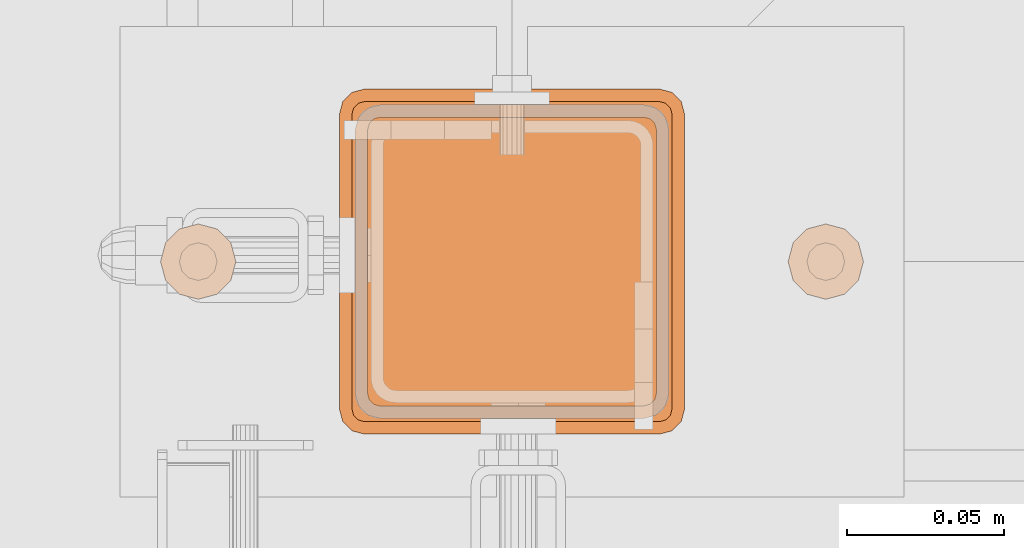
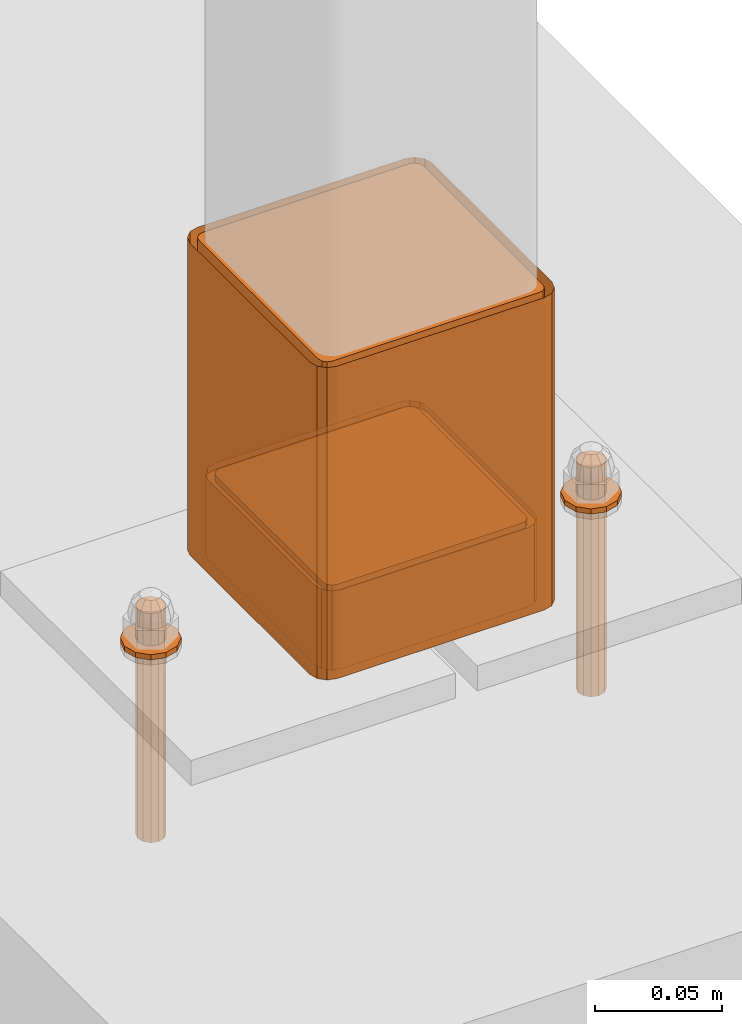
# One storey, part 89 of 116: 4 proxies.
"""IFC2X3 building model written with IfcOpenShell, lengths in millimetres."""

from ifc_helpers import new_model, entity, si_unit, converted_unit, origin_with_axes, place, context, project, spatial, faceted_brep, material, element, save


model = new_model("IFC2X3")

# Units and contexts
model_context = context("Model", 3, precision=1e-09, world=origin_with_axes())
ifc_project = project(units=[si_unit("LENGTHUNIT", "METRE", prefix="MILLI"), si_unit("AREAUNIT", "SQUARE_METRE"), si_unit("VOLUMEUNIT", "CUBIC_METRE"), converted_unit("PLANEANGLEUNIT", "DEGREE", entity("IfcPlaneAngleMeasure", 0.01745329), si_unit("PLANEANGLEUNIT", "RADIAN"), dimensions=[0, 0, 0, 0, 0, 0, 0])], contexts=[model_context])

# Site, building, storey
site_placement = place(None, origin_with_axes())
site = spatial("IfcSite", under=ifc_project, at=site_placement, Name="Site", CompositionType="ELEMENT")
building_placement = place(site_placement, origin_with_axes())
building = spatial("IfcBuilding", under=site, at=building_placement, Name="Struktur 1", CompositionType="ELEMENT")
storey_placement = place(building_placement, origin_with_axes())
storey = spatial("IfcBuildingStorey", under=building, at=storey_placement, Name="Default Storey", CompositionType="ELEMENT", Elevation=0.0)

# Proxies
ifc_material = material(Name="Kein")
proxy_1_placement = place(None, origin_with_axes())
element("IfcBuildingElementProxy", 1, at=proxy_1_placement, inside=storey, material=ifc_material, ObjectType="-", context=model_context, shape_type="Brep", body=[
    faceted_brep([(55434.049134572, 9137.555035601, -2164.5), (55434.049134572, 9137.555035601, -2180.0), (55431.852982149, 9135.358883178, -2180.0), (55431.852982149, 9135.358883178, -2164.5), (55425.049134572, 9132.358883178, -2180.0), (55426.656829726, 9126.358883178, -2180.0), (55431.049134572, 9121.966578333, -2180.0), (55437.049134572, 9120.358883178, -2180.0), (55443.049134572, 9121.966578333, -2180.0), (55447.441439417, 9126.358883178, -2180.0), (55449.049134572, 9132.358883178, -2180.0), (55447.441439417, 9138.358883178, -2180.0), (55443.049134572, 9142.751188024, -2180.0), (55437.049134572, 9144.358883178, -2180.0), (55431.049134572, 9142.751188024, -2180.0), (55426.656829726, 9138.358883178, -2180.0), (55437.049134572, 9138.358883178, -2180.0), (55440.049134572, 9137.555035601, -2180.0), (55442.245286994, 9135.358883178, -2180.0), (55443.049134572, 9132.358883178, -2180.0), (55442.245286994, 9129.358883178, -2180.0), (55440.049134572, 9127.162730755, -2180.0), (55437.049134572, 9126.358883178, -2180.0), (55434.049134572, 9127.162730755, -2180.0), (55431.852982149, 9129.358883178, -2180.0), (55431.049134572, 9132.358883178, -2180.0), (55437.049134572, 9138.358883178, -2164.5), (55426.656829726, 9138.358883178, -2182.5), (55431.049134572, 9142.751188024, -2182.5), (55440.049134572, 9127.162730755, -2164.5), (55442.245286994, 9129.358883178, -2164.5), (55443.049134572, 9132.358883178, -2164.5), (55442.245286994, 9135.358883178, -2164.5), (55440.049134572, 9137.555035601, -2164.5), (55431.049134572, 9132.358883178, -2164.5), (55431.852982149, 9129.358883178, -2164.5), (55434.049134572, 9127.162730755, -2164.5), (55437.049134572, 9126.358883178, -2164.5), (55437.049134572, 9144.358883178, -2182.5), (55443.049134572, 9142.751188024, -2182.5), (55447.441439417, 9138.358883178, -2182.5), (55449.049134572, 9132.358883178, -2182.5), (55447.441439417, 9126.358883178, -2182.5), (55443.049134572, 9121.966578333, -2182.5), (55437.049134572, 9120.358883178, -2182.5), (55431.049134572, 9121.966578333, -2182.5), (55426.656829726, 9126.358883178, -2182.5), (55425.049134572, 9132.358883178, -2182.5), (55437.049134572, 9138.358883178, -2182.5), (55434.049134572, 9137.555035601, -2182.5), (55431.852982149, 9135.358883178, -2182.5), (55431.049134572, 9132.358883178, -2182.5), (55431.852982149, 9129.358883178, -2182.5), (55434.049134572, 9127.162730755, -2182.5), (55437.049134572, 9126.358883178, -2182.5), (55440.049134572, 9127.162730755, -2182.5), (55442.245286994, 9129.358883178, -2182.5), (55443.049134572, 9132.358883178, -2182.5), (55442.245286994, 9135.358883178, -2182.5), (55440.049134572, 9137.555035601, -2182.5), (55434.049134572, 9137.555035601, -2274.5), (55437.049134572, 9138.358883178, -2274.5), (55431.852982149, 9135.358883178, -2274.5), (55431.049134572, 9132.358883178, -2274.5), (55431.852982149, 9129.358883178, -2274.5), (55434.049134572, 9127.162730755, -2274.5), (55440.049134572, 9137.555035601, -2274.5), (55442.245286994, 9135.358883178, -2274.5), (55443.049134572, 9132.358883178, -2274.5), (55442.245286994, 9129.358883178, -2274.5), (55440.049134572, 9127.162730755, -2274.5), (55437.049134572, 9126.358883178, -2274.5)], [[[0, 1, 2, 3]], [[4, 5, 6, 7, 8, 9, 10, 11, 12, 13, 14, 15], [2, 1, 16, 17, 18, 19, 20, 21, 22, 23, 24, 25]], [[1, 0, 26, 16]], [[27, 15, 14, 28]], [[29, 30, 31, 32, 33, 26, 0, 3, 34, 35, 36, 37]], [[38, 39, 40, 41, 42, 43, 44, 45, 46, 47, 27, 28], [48, 49, 50, 51, 52, 53, 54, 55, 56, 57, 58, 59]], [[15, 27, 47, 4]], [[3, 2, 25, 34]], [[28, 14, 13, 38]], [[16, 26, 33, 17]], [[60, 49, 48, 61]], [[62, 50, 49, 60]], [[63, 51, 50, 62]], [[64, 52, 51, 63]], [[4, 47, 46, 5]], [[34, 25, 24, 35]], [[17, 33, 32, 18]], [[65, 64, 63, 62, 60, 61, 66, 67, 68, 69, 70, 71]], [[61, 48, 59, 66]], [[38, 13, 12, 39]], [[52, 64, 65, 53]], [[18, 32, 31, 19]], [[53, 65, 71, 54]], [[5, 46, 45, 6]], [[35, 24, 23, 36]], [[58, 67, 66, 59]], [[39, 12, 11, 40]], [[19, 31, 30, 20]], [[67, 58, 57, 68]], [[56, 69, 68, 57]], [[55, 70, 69, 56]], [[54, 71, 70, 55]], [[6, 45, 44, 7]], [[36, 23, 22, 37]], [[40, 11, 10, 41]], [[21, 29, 37, 22]], [[20, 30, 29, 21]], [[7, 44, 43, 8]], [[41, 10, 9, 42]], [[8, 43, 42, 9]]]),
])
proxy_2_placement = place(None, origin_with_axes())
element("IfcBuildingElementProxy", 2, at=proxy_2_placement, inside=storey, material=ifc_material, ObjectType="-", context=model_context, shape_type="Brep", body=[
    faceted_brep([(55234.049134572, 9137.555035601, -2164.5), (55234.049134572, 9137.555035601, -2180.0), (55231.852982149, 9135.358883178, -2180.0), (55231.852982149, 9135.358883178, -2164.5), (55225.049134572, 9132.358883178, -2180.0), (55226.656829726, 9126.358883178, -2180.0), (55231.049134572, 9121.966578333, -2180.0), (55237.049134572, 9120.358883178, -2180.0), (55243.049134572, 9121.966578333, -2180.0), (55247.441439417, 9126.358883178, -2180.0), (55249.049134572, 9132.358883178, -2180.0), (55247.441439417, 9138.358883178, -2180.0), (55243.049134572, 9142.751188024, -2180.0), (55237.049134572, 9144.358883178, -2180.0), (55231.049134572, 9142.751188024, -2180.0), (55226.656829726, 9138.358883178, -2180.0), (55237.049134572, 9138.358883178, -2180.0), (55240.049134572, 9137.555035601, -2180.0), (55242.245286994, 9135.358883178, -2180.0), (55243.049134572, 9132.358883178, -2180.0), (55242.245286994, 9129.358883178, -2180.0), (55240.049134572, 9127.162730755, -2180.0), (55237.049134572, 9126.358883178, -2180.0), (55234.049134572, 9127.162730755, -2180.0), (55231.852982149, 9129.358883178, -2180.0), (55231.049134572, 9132.358883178, -2180.0), (55237.049134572, 9138.358883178, -2164.5), (55226.656829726, 9138.358883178, -2182.5), (55231.049134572, 9142.751188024, -2182.5), (55240.049134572, 9127.162730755, -2164.5), (55242.245286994, 9129.358883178, -2164.5), (55243.049134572, 9132.358883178, -2164.5), (55242.245286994, 9135.358883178, -2164.5), (55240.049134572, 9137.555035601, -2164.5), (55231.049134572, 9132.358883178, -2164.5), (55231.852982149, 9129.358883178, -2164.5), (55234.049134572, 9127.162730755, -2164.5), (55237.049134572, 9126.358883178, -2164.5), (55237.049134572, 9144.358883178, -2182.5), (55243.049134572, 9142.751188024, -2182.5), (55247.441439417, 9138.358883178, -2182.5), (55249.049134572, 9132.358883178, -2182.5), (55247.441439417, 9126.358883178, -2182.5), (55243.049134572, 9121.966578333, -2182.5), (55237.049134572, 9120.358883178, -2182.5), (55231.049134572, 9121.966578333, -2182.5), (55226.656829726, 9126.358883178, -2182.5), (55225.049134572, 9132.358883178, -2182.5), (55237.049134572, 9138.358883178, -2182.5), (55234.049134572, 9137.555035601, -2182.5), (55231.852982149, 9135.358883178, -2182.5), (55231.049134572, 9132.358883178, -2182.5), (55231.852982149, 9129.358883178, -2182.5), (55234.049134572, 9127.162730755, -2182.5), (55237.049134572, 9126.358883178, -2182.5), (55240.049134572, 9127.162730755, -2182.5), (55242.245286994, 9129.358883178, -2182.5), (55243.049134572, 9132.358883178, -2182.5), (55242.245286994, 9135.358883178, -2182.5), (55240.049134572, 9137.555035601, -2182.5), (55234.049134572, 9137.555035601, -2274.5), (55237.049134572, 9138.358883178, -2274.5), (55231.852982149, 9135.358883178, -2274.5), (55231.049134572, 9132.358883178, -2274.5), (55231.852982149, 9129.358883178, -2274.5), (55234.049134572, 9127.162730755, -2274.5), (55240.049134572, 9137.555035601, -2274.5), (55242.245286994, 9135.358883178, -2274.5), (55243.049134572, 9132.358883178, -2274.5), (55242.245286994, 9129.358883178, -2274.5), (55240.049134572, 9127.162730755, -2274.5), (55237.049134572, 9126.358883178, -2274.5)], [[[0, 1, 2, 3]], [[4, 5, 6, 7, 8, 9, 10, 11, 12, 13, 14, 15], [2, 1, 16, 17, 18, 19, 20, 21, 22, 23, 24, 25]], [[1, 0, 26, 16]], [[27, 15, 14, 28]], [[29, 30, 31, 32, 33, 26, 0, 3, 34, 35, 36, 37]], [[38, 39, 40, 41, 42, 43, 44, 45, 46, 47, 27, 28], [48, 49, 50, 51, 52, 53, 54, 55, 56, 57, 58, 59]], [[15, 27, 47, 4]], [[3, 2, 25, 34]], [[28, 14, 13, 38]], [[16, 26, 33, 17]], [[60, 49, 48, 61]], [[62, 50, 49, 60]], [[63, 51, 50, 62]], [[64, 52, 51, 63]], [[4, 47, 46, 5]], [[34, 25, 24, 35]], [[17, 33, 32, 18]], [[65, 64, 63, 62, 60, 61, 66, 67, 68, 69, 70, 71]], [[61, 48, 59, 66]], [[38, 13, 12, 39]], [[52, 64, 65, 53]], [[18, 32, 31, 19]], [[53, 65, 71, 54]], [[5, 46, 45, 6]], [[35, 24, 23, 36]], [[58, 67, 66, 59]], [[39, 12, 11, 40]], [[19, 31, 30, 20]], [[67, 58, 57, 68]], [[56, 69, 68, 57]], [[55, 70, 69, 56]], [[54, 71, 70, 55]], [[6, 45, 44, 7]], [[36, 23, 22, 37]], [[40, 11, 10, 41]], [[21, 29, 37, 22]], [[20, 30, 29, 21]], [[7, 44, 43, 8]], [[41, 10, 9, 42]], [[8, 43, 42, 9]]]),
])
proxy_3_placement = place(None, origin_with_axes())
element("IfcBuildingElementProxy", 3, at=proxy_3_placement, inside=storey, material=ifc_material, ObjectType="-", context=model_context, shape_type="Brep", body=[
    faceted_brep([(55283.120931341, 9081.358883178, -2035.0), (55283.120931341, 9081.358883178, -2185.0), (55286.049134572, 9078.430679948, -2185.0), (55286.049134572, 9078.430679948, -2035.0), (55286.585032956, 9083.358883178, -2035.0), (55286.049134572, 9085.358883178, -2035.0), (55286.049134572, 9179.358883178, -2035.0), (55286.585032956, 9181.358883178, -2035.0), (55288.049134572, 9182.822984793, -2035.0), (55290.049134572, 9183.358883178, -2035.0), (55384.049134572, 9183.358883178, -2035.0), (55386.049134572, 9182.822984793, -2035.0), (55387.513236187, 9181.358883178, -2035.0), (55388.049134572, 9179.358883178, -2035.0), (55388.049134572, 9085.358883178, -2035.0), (55387.513236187, 9083.358883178, -2035.0), (55386.049134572, 9081.894781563, -2035.0), (55384.049134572, 9081.358883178, -2035.0), (55290.049134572, 9081.358883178, -2035.0), (55288.049134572, 9081.894781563, -2035.0), (55288.049134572, 9081.894781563, -2185.0), (55286.585032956, 9083.358883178, -2185.0), (55282.049134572, 9085.358883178, -2185.0), (55282.049134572, 9179.358883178, -2185.0), (55283.120931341, 9183.358883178, -2185.0), (55286.049134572, 9186.287086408, -2185.0), (55290.049134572, 9187.358883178, -2185.0), (55384.049134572, 9187.358883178, -2185.0), (55388.049134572, 9186.287086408, -2185.0), (55390.977337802, 9183.358883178, -2185.0), (55392.049134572, 9179.358883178, -2185.0), (55392.049134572, 9085.358883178, -2185.0), (55390.977337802, 9081.358883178, -2185.0), (55388.049134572, 9078.430679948, -2185.0), (55384.049134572, 9077.358883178, -2185.0), (55290.049134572, 9077.358883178, -2185.0), (55290.049134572, 9081.358883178, -2185.0), (55384.049134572, 9081.358883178, -2185.0), (55386.049134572, 9081.894781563, -2185.0), (55387.513236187, 9083.358883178, -2185.0), (55388.049134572, 9085.358883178, -2185.0), (55388.049134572, 9179.358883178, -2185.0), (55387.513236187, 9181.358883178, -2185.0), (55386.049134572, 9182.822984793, -2185.0), (55384.049134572, 9183.358883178, -2185.0), (55290.049134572, 9183.358883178, -2185.0), (55288.049134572, 9182.822984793, -2185.0), (55286.585032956, 9181.358883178, -2185.0), (55286.049134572, 9179.358883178, -2185.0), (55286.049134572, 9085.358883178, -2185.0), (55282.049134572, 9085.358883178, -2035.0), (55290.049134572, 9077.358883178, -2035.0), (55282.049134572, 9179.358883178, -2035.0), (55384.049134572, 9077.358883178, -2035.0), (55283.120931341, 9183.358883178, -2035.0), (55388.049134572, 9078.430679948, -2035.0), (55332.048134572, 9183.358883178, -2045.0), (55332.048134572, 9187.358883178, -2045.0), (55332.718141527, 9187.358883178, -2042.4995), (55332.718141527, 9183.358883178, -2042.4995), (55332.718141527, 9183.358883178, -2047.5005), (55332.718141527, 9187.358883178, -2047.5005), (55334.548634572, 9187.358883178, -2040.669006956), (55334.548634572, 9183.358883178, -2040.669006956), (55290.049134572, 9187.358883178, -2035.0), (55384.049134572, 9187.358883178, -2035.0), (55334.548634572, 9187.358883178, -2049.330993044), (55337.049134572, 9187.358883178, -2050.001), (55339.549634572, 9187.358883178, -2049.330993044), (55341.380127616, 9187.358883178, -2047.5005), (55342.050134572, 9187.358883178, -2045.0), (55341.380127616, 9187.358883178, -2042.4995), (55339.549634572, 9187.358883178, -2040.669006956), (55337.049134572, 9187.358883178, -2039.999), (55286.049134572, 9186.287086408, -2035.0), (55337.049134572, 9183.358883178, -2039.999), (55339.549634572, 9183.358883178, -2040.669006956), (55341.380127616, 9183.358883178, -2042.4995), (55342.050134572, 9183.358883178, -2045.0), (55341.380127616, 9183.358883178, -2047.5005), (55339.549634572, 9183.358883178, -2049.330993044), (55337.049134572, 9183.358883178, -2050.001), (55334.548634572, 9183.358883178, -2049.330993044), (55390.977337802, 9081.358883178, -2035.0), (55392.049134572, 9085.358883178, -2035.0), (55392.049134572, 9179.358883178, -2035.0), (55390.977337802, 9183.358883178, -2035.0), (55388.049134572, 9186.287086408, -2035.0)], [[[0, 1, 2, 3]], [[4, 5, 6, 7, 8, 9, 10, 11, 12, 13, 14, 15, 16, 17, 18, 19]], [[19, 20, 21, 4]], [[22, 23, 24, 25, 26, 27, 28, 29, 30, 31, 32, 33, 34, 35, 2, 1], [21, 20, 36, 37, 38, 39, 40, 41, 42, 43, 44, 45, 46, 47, 48, 49]], [[1, 0, 50, 22]], [[20, 19, 18, 36]], [[3, 2, 35, 51]], [[4, 21, 49, 5]], [[23, 22, 50, 52]], [[37, 36, 18, 17]], [[53, 51, 35, 34]], [[6, 5, 49, 48]], [[23, 52, 54, 24]], [[37, 17, 16, 38]], [[53, 34, 33, 55]], [[56, 57, 58, 59]], [[6, 48, 47, 7]], [[57, 56, 60, 61]], [[59, 58, 62, 63]], [[64, 65, 27, 26], [61, 66, 67, 68, 69, 70, 71, 72, 73, 62, 58, 57]], [[24, 54, 74, 25]], [[7, 47, 46, 8]], [[9, 45, 44, 10], [59, 63, 75, 76, 77, 78, 79, 80, 81, 82, 60, 56]], [[38, 16, 15, 39]], [[55, 33, 32, 83]], [[63, 62, 73, 75]], [[75, 73, 72, 76]], [[45, 9, 8, 46]], [[61, 60, 82, 66]], [[76, 72, 71, 77]], [[25, 74, 64, 26]], [[66, 82, 81, 67]], [[67, 81, 80, 68]], [[39, 15, 14, 40]], [[83, 32, 31, 84]], [[77, 71, 70, 78]], [[69, 79, 78, 70]], [[68, 80, 79, 69]], [[41, 40, 14, 13]], [[85, 84, 31, 30]], [[41, 13, 12, 42]], [[10, 44, 43, 11]], [[11, 43, 42, 12]], [[85, 30, 29, 86]], [[27, 65, 87, 28]], [[86, 29, 28, 87]]]),
])
proxy_4_placement = place(None, origin_with_axes())
element("IfcBuildingElementProxy", 4, at=proxy_4_placement, inside=storey, material=ifc_material, ObjectType="-", context=model_context, shape_type="Brep", body=[
    faceted_brep([(55293.049134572, 9086.894781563, -2165.0), (55293.049134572, 9086.894781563, -2185.0), (55291.585032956, 9088.358883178, -2185.0), (55291.585032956, 9088.358883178, -2165.0), (55291.049134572, 9083.430679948, -2185.0), (55288.120931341, 9086.358883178, -2185.0), (55287.049134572, 9090.358883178, -2185.0), (55287.049134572, 9174.358883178, -2185.0), (55288.120931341, 9178.358883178, -2185.0), (55291.049134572, 9181.287086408, -2185.0), (55295.049134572, 9182.358883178, -2185.0), (55379.049134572, 9182.358883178, -2185.0), (55383.049134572, 9181.287086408, -2185.0), (55385.977337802, 9178.358883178, -2185.0), (55387.049134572, 9174.358883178, -2185.0), (55387.049134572, 9090.358883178, -2185.0), (55385.977337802, 9086.358883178, -2185.0), (55383.049134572, 9083.430679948, -2185.0), (55379.049134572, 9082.358883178, -2185.0), (55295.049134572, 9082.358883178, -2185.0), (55295.049134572, 9086.358883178, -2185.0), (55379.049134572, 9086.358883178, -2185.0), (55381.049134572, 9086.894781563, -2185.0), (55382.513236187, 9088.358883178, -2185.0), (55383.049134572, 9090.358883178, -2185.0), (55383.049134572, 9174.358883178, -2185.0), (55382.513236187, 9176.358883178, -2185.0), (55381.049134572, 9177.822984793, -2185.0), (55379.049134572, 9178.358883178, -2185.0), (55295.049134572, 9178.358883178, -2185.0), (55293.049134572, 9177.822984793, -2185.0), (55291.585032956, 9176.358883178, -2185.0), (55291.049134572, 9174.358883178, -2185.0), (55291.049134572, 9090.358883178, -2185.0), (55291.049134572, 9090.358883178, -2165.0), (55291.049134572, 9174.358883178, -2165.0), (55291.585032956, 9176.358883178, -2165.0), (55293.049134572, 9177.822984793, -2165.0), (55295.049134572, 9178.358883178, -2165.0), (55379.049134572, 9178.358883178, -2165.0), (55381.049134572, 9177.822984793, -2165.0), (55382.513236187, 9176.358883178, -2165.0), (55383.049134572, 9174.358883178, -2165.0), (55383.049134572, 9090.358883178, -2165.0), (55382.513236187, 9088.358883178, -2165.0), (55381.049134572, 9086.894781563, -2165.0), (55379.049134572, 9086.358883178, -2165.0), (55295.049134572, 9086.358883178, -2165.0), (55291.049134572, 9083.430679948, -2165.0), (55288.120931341, 9086.358883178, -2165.0), (55295.049134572, 9082.358883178, -2165.0), (55287.049134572, 9090.358883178, -2165.0), (55379.049134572, 9082.358883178, -2165.0), (55287.049134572, 9174.358883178, -2165.0), (55383.049134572, 9083.430679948, -2165.0), (55288.120931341, 9178.358883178, -2165.0), (55385.977337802, 9086.358883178, -2165.0), (55291.049134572, 9181.287086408, -2165.0), (55387.049134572, 9090.358883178, -2165.0), (55295.049134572, 9182.358883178, -2165.0), (55387.049134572, 9174.358883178, -2165.0), (55379.049134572, 9182.358883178, -2165.0), (55385.977337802, 9178.358883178, -2165.0), (55383.049134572, 9181.287086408, -2165.0)], [[[0, 1, 2, 3]], [[4, 5, 6, 7, 8, 9, 10, 11, 12, 13, 14, 15, 16, 17, 18, 19], [20, 21, 22, 23, 24, 25, 26, 27, 28, 29, 30, 31, 32, 33, 2, 1]], [[3, 34, 35, 36, 37, 38, 39, 40, 41, 42, 43, 44, 45, 46, 47, 0]], [[4, 48, 49, 5]], [[1, 0, 47, 20]], [[48, 4, 19, 50]], [[5, 49, 51, 6]], [[3, 2, 33, 34]], [[21, 20, 47, 46]], [[52, 50, 19, 18]], [[7, 6, 51, 53]], [[35, 34, 33, 32]], [[21, 46, 45, 22]], [[52, 18, 17, 54]], [[7, 53, 55, 8]], [[35, 32, 31, 36]], [[22, 45, 44, 23]], [[54, 17, 16, 56]], [[8, 55, 57, 9]], [[36, 31, 30, 37]], [[23, 44, 43, 24]], [[37, 30, 29, 38]], [[56, 16, 15, 58]], [[9, 57, 59, 10]], [[39, 38, 29, 28]], [[25, 24, 43, 42]], [[60, 58, 15, 14]], [[27, 40, 39, 28]], [[11, 10, 59, 61]], [[40, 27, 26, 41]], [[41, 26, 25, 42]], [[60, 14, 13, 62]], [[11, 61, 63, 12]], [[62, 13, 12, 63]]]),
    faceted_brep([(55293.049134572, 9086.894781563, -2155.0), (55293.049134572, 9086.894781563, -2165.0), (55291.585032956, 9088.358883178, -2165.0), (55291.585032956, 9088.358883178, -2155.0), (55291.049134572, 9083.430679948, -2165.0), (55288.120931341, 9086.358883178, -2165.0), (55287.049134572, 9090.358883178, -2165.0), (55287.049134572, 9174.358883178, -2165.0), (55288.120931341, 9178.358883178, -2165.0), (55291.049134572, 9181.287086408, -2165.0), (55295.049134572, 9182.358883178, -2165.0), (55379.049134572, 9182.358883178, -2165.0), (55383.049134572, 9181.287086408, -2165.0), (55385.977337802, 9178.358883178, -2165.0), (55387.049134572, 9174.358883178, -2165.0), (55387.049134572, 9090.358883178, -2165.0), (55385.977337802, 9086.358883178, -2165.0), (55383.049134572, 9083.430679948, -2165.0), (55379.049134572, 9082.358883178, -2165.0), (55295.049134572, 9082.358883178, -2165.0), (55295.049134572, 9086.358883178, -2165.0), (55379.049134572, 9086.358883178, -2165.0), (55381.049134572, 9086.894781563, -2165.0), (55382.513236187, 9088.358883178, -2165.0), (55383.049134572, 9090.358883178, -2165.0), (55383.049134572, 9174.358883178, -2165.0), (55382.513236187, 9176.358883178, -2165.0), (55381.049134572, 9177.822984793, -2165.0), (55379.049134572, 9178.358883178, -2165.0), (55295.049134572, 9178.358883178, -2165.0), (55293.049134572, 9177.822984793, -2165.0), (55291.585032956, 9176.358883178, -2165.0), (55291.049134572, 9174.358883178, -2165.0), (55291.049134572, 9090.358883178, -2165.0), (55291.049134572, 9090.358883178, -2155.0), (55291.049134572, 9174.358883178, -2155.0), (55291.585032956, 9176.358883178, -2155.0), (55293.049134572, 9177.822984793, -2155.0), (55295.049134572, 9178.358883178, -2155.0), (55379.049134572, 9178.358883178, -2155.0), (55381.049134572, 9177.822984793, -2155.0), (55382.513236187, 9176.358883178, -2155.0), (55383.049134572, 9174.358883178, -2155.0), (55383.049134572, 9090.358883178, -2155.0), (55382.513236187, 9088.358883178, -2155.0), (55381.049134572, 9086.894781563, -2155.0), (55379.049134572, 9086.358883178, -2155.0), (55295.049134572, 9086.358883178, -2155.0), (55291.049134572, 9083.430679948, -2155.0), (55288.120931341, 9086.358883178, -2155.0), (55295.049134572, 9082.358883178, -2155.0), (55287.049134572, 9090.358883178, -2155.0), (55379.049134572, 9082.358883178, -2155.0), (55287.049134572, 9174.358883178, -2155.0), (55383.049134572, 9083.430679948, -2155.0), (55288.120931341, 9178.358883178, -2155.0), (55385.977337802, 9086.358883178, -2155.0), (55291.049134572, 9181.287086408, -2155.0), (55387.049134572, 9090.358883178, -2155.0), (55295.049134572, 9182.358883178, -2155.0), (55387.049134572, 9174.358883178, -2155.0), (55379.049134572, 9182.358883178, -2155.0), (55385.977337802, 9178.358883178, -2155.0), (55383.049134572, 9181.287086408, -2155.0)], [[[0, 1, 2, 3]], [[4, 5, 6, 7, 8, 9, 10, 11, 12, 13, 14, 15, 16, 17, 18, 19], [20, 21, 22, 23, 24, 25, 26, 27, 28, 29, 30, 31, 32, 33, 2, 1]], [[3, 34, 35, 36, 37, 38, 39, 40, 41, 42, 43, 44, 45, 46, 47, 0]], [[4, 48, 49, 5]], [[1, 0, 47, 20]], [[48, 4, 19, 50]], [[5, 49, 51, 6]], [[3, 2, 33, 34]], [[21, 20, 47, 46]], [[52, 50, 19, 18]], [[7, 6, 51, 53]], [[35, 34, 33, 32]], [[21, 46, 45, 22]], [[52, 18, 17, 54]], [[7, 53, 55, 8]], [[35, 32, 31, 36]], [[22, 45, 44, 23]], [[54, 17, 16, 56]], [[8, 55, 57, 9]], [[36, 31, 30, 37]], [[23, 44, 43, 24]], [[37, 30, 29, 38]], [[56, 16, 15, 58]], [[9, 57, 59, 10]], [[39, 38, 29, 28]], [[25, 24, 43, 42]], [[60, 58, 15, 14]], [[27, 40, 39, 28]], [[11, 10, 59, 61]], [[40, 27, 26, 41]], [[41, 26, 25, 42]], [[60, 14, 13, 62]], [[11, 61, 63, 12]], [[62, 13, 12, 63]]]),
    faceted_brep([(55293.049134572, 9086.894781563, -2150.0), (55293.049134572, 9086.894781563, -2155.0), (55291.585032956, 9088.358883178, -2155.0), (55291.585032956, 9088.358883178, -2150.0), (55291.049134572, 9083.430679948, -2155.0), (55288.120931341, 9086.358883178, -2155.0), (55287.049134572, 9090.358883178, -2155.0), (55287.049134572, 9174.358883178, -2155.0), (55288.120931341, 9178.358883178, -2155.0), (55291.049134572, 9181.287086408, -2155.0), (55295.049134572, 9182.358883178, -2155.0), (55379.049134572, 9182.358883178, -2155.0), (55383.049134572, 9181.287086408, -2155.0), (55385.977337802, 9178.358883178, -2155.0), (55387.049134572, 9174.358883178, -2155.0), (55387.049134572, 9090.358883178, -2155.0), (55385.977337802, 9086.358883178, -2155.0), (55383.049134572, 9083.430679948, -2155.0), (55379.049134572, 9082.358883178, -2155.0), (55295.049134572, 9082.358883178, -2155.0), (55295.049134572, 9086.358883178, -2155.0), (55379.049134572, 9086.358883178, -2155.0), (55381.049134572, 9086.894781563, -2155.0), (55382.513236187, 9088.358883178, -2155.0), (55383.049134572, 9090.358883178, -2155.0), (55383.049134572, 9174.358883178, -2155.0), (55382.513236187, 9176.358883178, -2155.0), (55381.049134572, 9177.822984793, -2155.0), (55379.049134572, 9178.358883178, -2155.0), (55295.049134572, 9178.358883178, -2155.0), (55293.049134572, 9177.822984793, -2155.0), (55291.585032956, 9176.358883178, -2155.0), (55291.049134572, 9174.358883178, -2155.0), (55291.049134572, 9090.358883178, -2155.0), (55291.049134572, 9090.358883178, -2150.0), (55291.049134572, 9174.358883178, -2150.0), (55291.585032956, 9176.358883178, -2150.0), (55293.049134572, 9177.822984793, -2150.0), (55295.049134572, 9178.358883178, -2150.0), (55379.049134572, 9178.358883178, -2150.0), (55381.049134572, 9177.822984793, -2150.0), (55382.513236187, 9176.358883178, -2150.0), (55383.049134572, 9174.358883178, -2150.0), (55383.049134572, 9090.358883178, -2150.0), (55382.513236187, 9088.358883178, -2150.0), (55381.049134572, 9086.894781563, -2150.0), (55379.049134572, 9086.358883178, -2150.0), (55295.049134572, 9086.358883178, -2150.0), (55291.049134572, 9083.430679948, -2150.0), (55288.120931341, 9086.358883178, -2150.0), (55295.049134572, 9082.358883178, -2150.0), (55287.049134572, 9090.358883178, -2150.0), (55379.049134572, 9082.358883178, -2150.0), (55287.049134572, 9174.358883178, -2150.0), (55383.049134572, 9083.430679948, -2150.0), (55288.120931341, 9178.358883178, -2150.0), (55385.977337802, 9086.358883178, -2150.0), (55291.049134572, 9181.287086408, -2150.0), (55387.049134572, 9090.358883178, -2150.0), (55295.049134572, 9182.358883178, -2150.0), (55387.049134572, 9174.358883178, -2150.0), (55379.049134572, 9182.358883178, -2150.0), (55385.977337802, 9178.358883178, -2150.0), (55383.049134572, 9181.287086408, -2150.0)], [[[0, 1, 2, 3]], [[4, 5, 6, 7, 8, 9, 10, 11, 12, 13, 14, 15, 16, 17, 18, 19], [20, 21, 22, 23, 24, 25, 26, 27, 28, 29, 30, 31, 32, 33, 2, 1]], [[3, 34, 35, 36, 37, 38, 39, 40, 41, 42, 43, 44, 45, 46, 47, 0]], [[4, 48, 49, 5]], [[1, 0, 47, 20]], [[48, 4, 19, 50]], [[5, 49, 51, 6]], [[3, 2, 33, 34]], [[21, 20, 47, 46]], [[52, 50, 19, 18]], [[7, 6, 51, 53]], [[35, 34, 33, 32]], [[21, 46, 45, 22]], [[52, 18, 17, 54]], [[7, 53, 55, 8]], [[35, 32, 31, 36]], [[22, 45, 44, 23]], [[54, 17, 16, 56]], [[8, 55, 57, 9]], [[36, 31, 30, 37]], [[23, 44, 43, 24]], [[37, 30, 29, 38]], [[56, 16, 15, 58]], [[9, 57, 59, 10]], [[39, 38, 29, 28]], [[25, 24, 43, 42]], [[60, 58, 15, 14]], [[27, 40, 39, 28]], [[11, 10, 59, 61]], [[40, 27, 26, 41]], [[41, 26, 25, 42]], [[60, 14, 13, 62]], [[11, 61, 63, 12]], [[62, 13, 12, 63]]]),
    faceted_brep([(55293.049134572, 9086.894781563, -2147.0), (55293.049134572, 9086.894781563, -2150.0), (55291.585032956, 9088.358883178, -2150.0), (55291.585032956, 9088.358883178, -2147.0), (55291.049134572, 9083.430679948, -2150.0), (55288.120931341, 9086.358883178, -2150.0), (55287.049134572, 9090.358883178, -2150.0), (55287.049134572, 9174.358883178, -2150.0), (55288.120931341, 9178.358883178, -2150.0), (55291.049134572, 9181.287086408, -2150.0), (55295.049134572, 9182.358883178, -2150.0), (55379.049134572, 9182.358883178, -2150.0), (55383.049134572, 9181.287086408, -2150.0), (55385.977337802, 9178.358883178, -2150.0), (55387.049134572, 9174.358883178, -2150.0), (55387.049134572, 9090.358883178, -2150.0), (55385.977337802, 9086.358883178, -2150.0), (55383.049134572, 9083.430679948, -2150.0), (55379.049134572, 9082.358883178, -2150.0), (55295.049134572, 9082.358883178, -2150.0), (55295.049134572, 9086.358883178, -2150.0), (55379.049134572, 9086.358883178, -2150.0), (55381.049134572, 9086.894781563, -2150.0), (55382.513236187, 9088.358883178, -2150.0), (55383.049134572, 9090.358883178, -2150.0), (55383.049134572, 9174.358883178, -2150.0), (55382.513236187, 9176.358883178, -2150.0), (55381.049134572, 9177.822984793, -2150.0), (55379.049134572, 9178.358883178, -2150.0), (55295.049134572, 9178.358883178, -2150.0), (55293.049134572, 9177.822984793, -2150.0), (55291.585032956, 9176.358883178, -2150.0), (55291.049134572, 9174.358883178, -2150.0), (55291.049134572, 9090.358883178, -2150.0), (55291.049134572, 9090.358883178, -2147.0), (55291.049134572, 9174.358883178, -2147.0), (55291.585032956, 9176.358883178, -2147.0), (55293.049134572, 9177.822984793, -2147.0), (55295.049134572, 9178.358883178, -2147.0), (55379.049134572, 9178.358883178, -2147.0), (55381.049134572, 9177.822984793, -2147.0), (55382.513236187, 9176.358883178, -2147.0), (55383.049134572, 9174.358883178, -2147.0), (55383.049134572, 9090.358883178, -2147.0), (55382.513236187, 9088.358883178, -2147.0), (55381.049134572, 9086.894781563, -2147.0), (55379.049134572, 9086.358883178, -2147.0), (55295.049134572, 9086.358883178, -2147.0), (55291.049134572, 9083.430679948, -2147.0), (55288.120931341, 9086.358883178, -2147.0), (55295.049134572, 9082.358883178, -2147.0), (55287.049134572, 9090.358883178, -2147.0), (55379.049134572, 9082.358883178, -2147.0), (55287.049134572, 9174.358883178, -2147.0), (55383.049134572, 9083.430679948, -2147.0), (55288.120931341, 9178.358883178, -2147.0), (55385.977337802, 9086.358883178, -2147.0), (55291.049134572, 9181.287086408, -2147.0), (55387.049134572, 9090.358883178, -2147.0), (55295.049134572, 9182.358883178, -2147.0), (55387.049134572, 9174.358883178, -2147.0), (55379.049134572, 9182.358883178, -2147.0), (55385.977337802, 9178.358883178, -2147.0), (55383.049134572, 9181.287086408, -2147.0)], [[[0, 1, 2, 3]], [[4, 5, 6, 7, 8, 9, 10, 11, 12, 13, 14, 15, 16, 17, 18, 19], [20, 21, 22, 23, 24, 25, 26, 27, 28, 29, 30, 31, 32, 33, 2, 1]], [[3, 34, 35, 36, 37, 38, 39, 40, 41, 42, 43, 44, 45, 46, 47, 0]], [[4, 48, 49, 5]], [[1, 0, 47, 20]], [[48, 4, 19, 50]], [[5, 49, 51, 6]], [[3, 2, 33, 34]], [[21, 20, 47, 46]], [[52, 50, 19, 18]], [[7, 6, 51, 53]], [[35, 34, 33, 32]], [[21, 46, 45, 22]], [[52, 18, 17, 54]], [[7, 53, 55, 8]], [[35, 32, 31, 36]], [[22, 45, 44, 23]], [[54, 17, 16, 56]], [[8, 55, 57, 9]], [[36, 31, 30, 37]], [[23, 44, 43, 24]], [[37, 30, 29, 38]], [[56, 16, 15, 58]], [[9, 57, 59, 10]], [[39, 38, 29, 28]], [[25, 24, 43, 42]], [[60, 58, 15, 14]], [[27, 40, 39, 28]], [[11, 10, 59, 61]], [[40, 27, 26, 41]], [[41, 26, 25, 42]], [[60, 14, 13, 62]], [[11, 61, 63, 12]], [[62, 13, 12, 63]]]),
])

save(model, "model.ifc")
